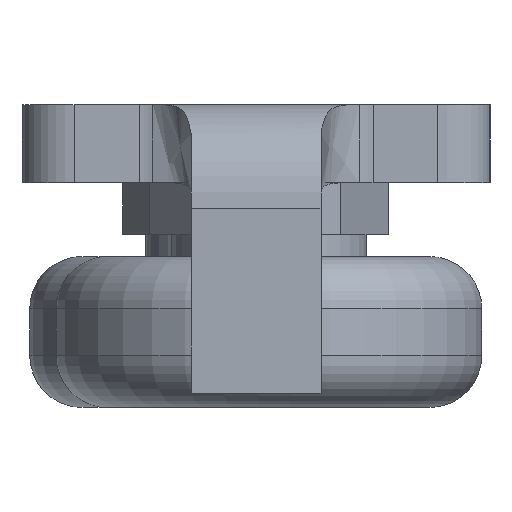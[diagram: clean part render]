
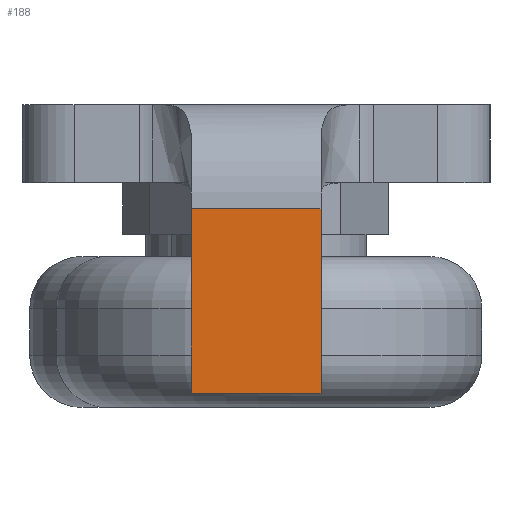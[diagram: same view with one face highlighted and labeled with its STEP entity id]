
A CAD part, left-side view. The second image highlights one B-rep face of the part: STEP entity #188.
In plain terms, the highlighted planar face has unit normal (-1, 0, 0).
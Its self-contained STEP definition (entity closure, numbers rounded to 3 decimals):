
#88 = FACE_OUTER_BOUND ( 'NONE', #1666, .T. ) ;
#147 = CARTESIAN_POINT ( 'NONE',  ( -70., -2.5, -11.1 ) ) ;
#188 = ADVANCED_FACE ( 'NONE', ( #88 ), #1515, .F. ) ;
#215 = VERTEX_POINT ( 'NONE', #147 ) ;
#251 = DIRECTION ( 'NONE',  ( 0., -1., 0. ) ) ;
#426 = VECTOR ( 'NONE', #251, 1000. ) ;
#524 = LINE ( 'NONE', #1655, #1852 ) ;
#546 = CARTESIAN_POINT ( 'NONE',  ( -70., 2.5, -4. ) ) ;
#564 = LINE ( 'NONE', #3389, #426 ) ;
#753 = VERTEX_POINT ( 'NONE', #546 ) ;
#783 = EDGE_CURVE ( 'NONE', #753, #1167, #564, .T. ) ;
#895 = VECTOR ( 'NONE', #2838, 1000. ) ;
#1167 = VERTEX_POINT ( 'NONE', #2973 ) ;
#1179 = VERTEX_POINT ( 'NONE', #1291 ) ;
#1260 = VECTOR ( 'NONE', #3439, 1000. ) ;
#1282 = DIRECTION ( 'NONE',  ( 1., 0., 0. ) ) ;
#1291 = CARTESIAN_POINT ( 'NONE',  ( -70., 2.5, -11.1 ) ) ;
#1422 = EDGE_CURVE ( 'NONE', #1179, #753, #3558, .T. ) ;
#1478 = ORIENTED_EDGE ( 'NONE', *, *, #2438, .T. ) ;
#1515 = PLANE ( 'NONE',  #2412 ) ;
#1655 = CARTESIAN_POINT ( 'NONE',  ( -70., 0., -11.1 ) ) ;
#1666 = EDGE_LOOP ( 'NONE', ( #2235, #2314, #2749, #1478 ) ) ;
#1852 = VECTOR ( 'NONE', #2820, 1000. ) ;
#1964 = CARTESIAN_POINT ( 'NONE',  ( -70., -2.5, 0. ) ) ;
#2093 = CARTESIAN_POINT ( 'NONE',  ( -70., 2.5, -11.1 ) ) ;
#2126 = DIRECTION ( 'NONE',  ( 0., 0., -1. ) ) ;
#2235 = ORIENTED_EDGE ( 'NONE', *, *, #783, .F. ) ;
#2314 = ORIENTED_EDGE ( 'NONE', *, *, #1422, .F. ) ;
#2412 = AXIS2_PLACEMENT_3D ( 'NONE', #3611, #1282, #2126 ) ;
#2438 = EDGE_CURVE ( 'NONE', #215, #1167, #2628, .T. ) ;
#2628 = LINE ( 'NONE', #1964, #895 ) ;
#2749 = ORIENTED_EDGE ( 'NONE', *, *, #3154, .T. ) ;
#2820 = DIRECTION ( 'NONE',  ( 0., -1., 0. ) ) ;
#2838 = DIRECTION ( 'NONE',  ( 0., 0., 1. ) ) ;
#2973 = CARTESIAN_POINT ( 'NONE',  ( -70., -2.5, -4. ) ) ;
#3154 = EDGE_CURVE ( 'NONE', #1179, #215, #524, .T. ) ;
#3389 = CARTESIAN_POINT ( 'NONE',  ( -70., -9., -4. ) ) ;
#3439 = DIRECTION ( 'NONE',  ( 0., 0., 1. ) ) ;
#3558 = LINE ( 'NONE', #2093, #1260 ) ;
#3611 = CARTESIAN_POINT ( 'NONE',  ( -70., 0., 0. ) ) ;
